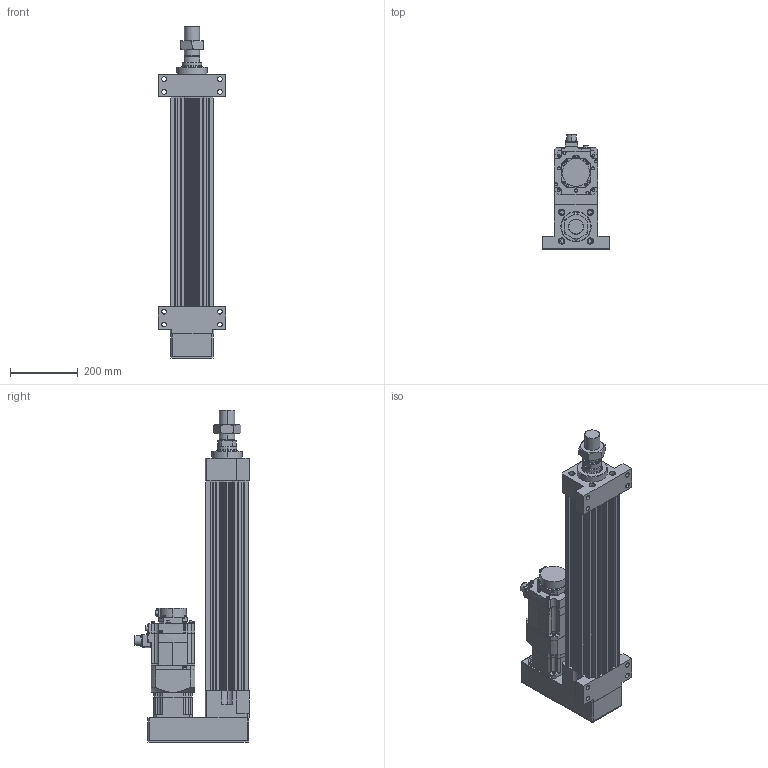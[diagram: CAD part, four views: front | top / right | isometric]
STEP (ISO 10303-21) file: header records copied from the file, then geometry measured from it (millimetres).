
FILE_DESCRIPTION (( 'STEP AP203' ), '1' );
FILE_NAME ('HES130NS(FS)(HS)-P400-W015G00-M-FFB.STEP', '2026-06-10T06:07:56', ( 'tms' ), ( '' ), 'SwSTEP 2.0', 'SolidWorks 2013', '' );
FILE_SCHEMA (( 'CONFIG_CONTROL_DESIGN' ));
Length unit declared in the file: millimetre
Products named in the file (8): HG-SR152B; HES130-M-ROD-400; HES130-FFB-400; AB1151; AB1152; HES130NS(FS)(HS)-P400-W015G00-M-FFB; M45X1.5P; HES130-P-G120
Assembly tree (7 placements, depth 2):
  HES130NS(FS)(HS)-P400-W015G00-M-FFB
    HES130-FFB-400
    HES130-M-ROD-400
    M45X1.5P
    HES130-P-G120
    AB1151
    AB1152
    HG-SR152B
Bounding box: 200 x 337.49 x 982 mm (x, y, z)
Volume: 11691945.6 mm3; surface area: 1454077 mm2
Topology: 5 solids, 12 shells, 1206 faces, 3060 edges, 1987 vertices
Faces by surface type: cylinder 568, plane 542, cone 82, bspline 10, torus 4
Entity records: 38313 total; most frequent: CARTESIAN_POINT 7368, DIRECTION 6633, ORIENTED_EDGE 6076, EDGE_CURVE 3048, AXIS2_PLACEMENT_3D 2473, VERTEX_POINT 1987, LINE 1687, VECTOR 1687
